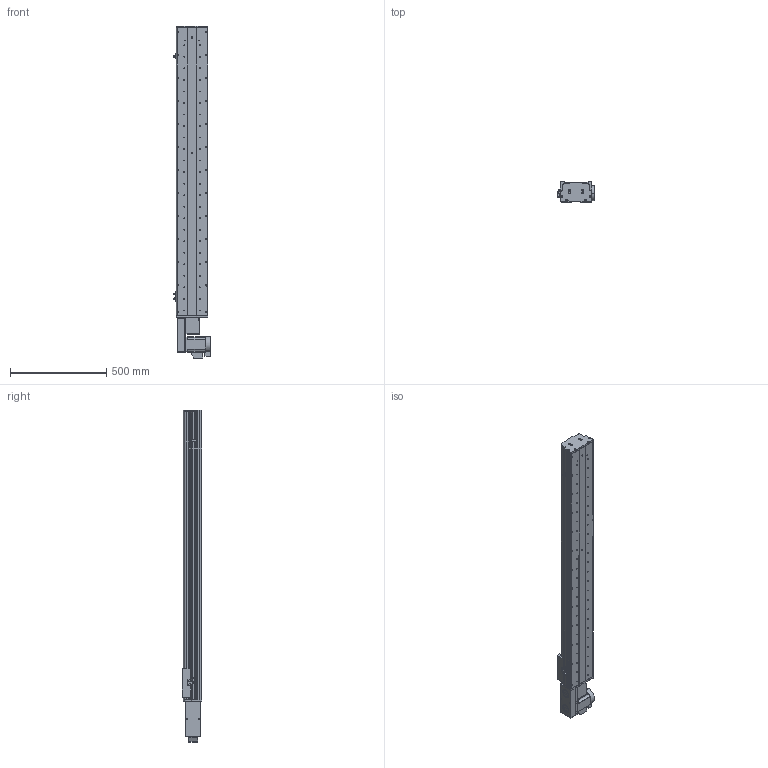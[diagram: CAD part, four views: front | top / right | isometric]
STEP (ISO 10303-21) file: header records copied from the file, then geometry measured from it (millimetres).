
FILE_DESCRIPTION (( 'STEP AP214' ), '1' );
FILE_NAME ('KSD165B-S1250-MLB-CM.STEP', '2017-10-16T06:28:34', ( '微软用户' ), ( '微软中国' ), 'SwSTEP 2.0', 'SolidWorks 2014', '' );
FILE_SCHEMA (( 'AUTOMOTIVE_DESIGN' ));
Length unit declared in the file: millimetre
Products named in the file (17): U倰嫖萇EEㄜSX672; 覜茼え68遵圉猾敕; KSD165模组-同步带-防撞垫2; KSD165模组同步带-防撞垫1; KSD165耀郪-ヶ傷啣1-肮祭湍; KSD165模组-后端板1-同步带; KSD165模组-同步带滑动座-最新版; KSD165B-S1250-MLB-CM; HTPA26S5M250-A-H8 750W萇儂蚚; HTPA26S5M250-A-H8 400W萇儂蚚 ; 130宽模组马达安装板连板左右折同步带; 130宽模组保护罩上下左右折-同步带; 165宽马达安装板同步带左-改; KSD165模组-同步带防尘盖1-1250行程; KSD165模组同步带底板-1250行程; 拸秶雄ん750W侜督萇儂; U倰嫖萇假蚾璃
Assembly tree (20 placements, depth 2):
  KSD165B-S1250-MLB-CM
    KSD165模组-同步带滑动座-最新版
    KSD165模组-后端板1-同步带
    KSD165耀郪-ヶ傷啣1-肮祭湍
    KSD165模组同步带-防撞垫1
    KSD165模组-同步带-防撞垫2
    覜茼え68遵圉猾敕
    U倰嫖萇EEㄜSX672  x3
    U倰嫖萇假蚾璃  x3
    拸秶雄ん750W侜督萇儂
    KSD165模组同步带底板-1250行程
    KSD165模组-同步带防尘盖1-1250行程
    165宽马达安装板同步带左-改
    130宽模组保护罩上下左右折-同步带
    130宽模组马达安装板连板左右折同步带
    HTPA26S5M250-A-H8 400W萇儂蚚 
    HTPA26S5M250-A-H8 750W萇儂蚚
Bounding box: 191.2 x 104 x 1728 mm (x, y, z)
Volume: 9044622.5 mm3; surface area: 2107449.3 mm2
Topology: 21 solids, 22 shells, 2015 faces, 5694 edges, 3720 vertices
Faces by surface type: cylinder 1309, plane 594, cone 112
Entity records: 65904 total; most frequent: CARTESIAN_POINT 13506, DIRECTION 10790, ORIENTED_EDGE 10048, EDGE_CURVE 5024, AXIS2_PLACEMENT_3D 4242, VERTEX_POINT 3312, CIRCLE 2424, LINE 2306
